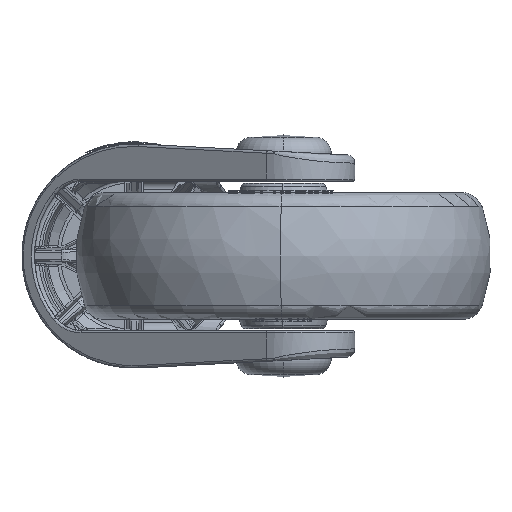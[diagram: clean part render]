
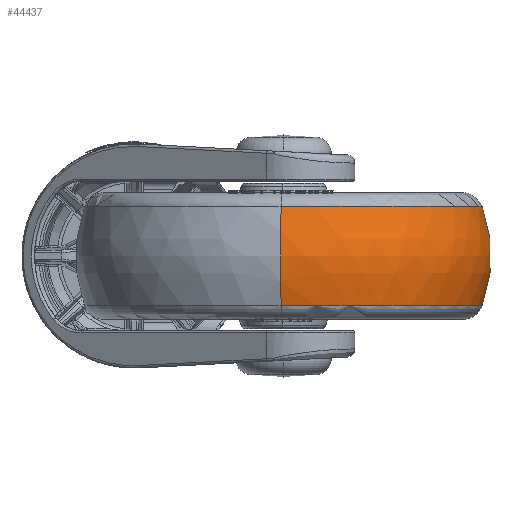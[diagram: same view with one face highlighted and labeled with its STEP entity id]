
A CAD part, front view. The second image highlights one B-rep face of the part: STEP entity #44437.
In plain terms, the highlighted free-form (B-spline) face has degree [3, 3] with [7, 4] control points.
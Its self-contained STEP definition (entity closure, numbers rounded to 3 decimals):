
#38315=CARTESIAN_POINT('',(63.,17.855,-45.886));
#38316=DIRECTION('',(0.,0.,-1.));
#38317=DIRECTION('',(0.012,1.,0.));
#38318=AXIS2_PLACEMENT_3D('',#38315,#38316,#38317);
#38320=CARTESIAN_POINT('',(62.814,2.856,
-33.927));
#38321=DIRECTION('',(1.,-0.012,0.));
#38322=DIRECTION('',(-0.012,-0.94,0.342));
#38323=AXIS2_PLACEMENT_3D('',#38320,#38321,#38322);
#38325=CARTESIAN_POINT('',(63.,17.855,-21.969));
#38326=DIRECTION('',(0.,0.,-1.));
#38327=DIRECTION('',(0.012,1.,0.));
#38328=AXIS2_PLACEMENT_3D('',#38325,#38326,#38327);
#38330=CARTESIAN_POINT('',(63.186,32.854,
-33.927));
#38331=DIRECTION('',(-1.,0.012,0.));
#38332=DIRECTION('',(0.012,0.94,0.342));
#38333=AXIS2_PLACEMENT_3D('',#38330,#38331,#38332);
#42377=CARTESIAN_POINT('',(62.407,-30.035,
-45.886));
#42378=CARTESIAN_POINT('',(63.593,65.745,
-45.886));
#42379=VERTEX_POINT('',#42377);
#42380=VERTEX_POINT('',#42378);
#42381=CARTESIAN_POINT('',(62.407,-30.035,
-21.969));
#42382=CARTESIAN_POINT('',(63.593,65.745,
-21.969));
#42383=VERTEX_POINT('',#42381);
#42384=VERTEX_POINT('',#42382);
#44400=CARTESIAN_POINT('',(59.414,-29.734,
-46.343));
#44401=CARTESIAN_POINT('',(59.183,-32.795,
-38.254));
#44402=CARTESIAN_POINT('',(59.183,-32.795,
-29.601));
#44403=CARTESIAN_POINT('',(59.414,-29.734,
-21.512));
#44404=CARTESIAN_POINT('',(88.7,-31.941,
-46.343));
#44405=CARTESIAN_POINT('',(90.353,-35.144,
-38.254));
#44406=CARTESIAN_POINT('',(90.353,-35.144,
-29.601));
#44407=CARTESIAN_POINT('',(88.7,-31.941,
-21.512));
#44408=CARTESIAN_POINT('',(110.357,-12.103,
-46.343));
#44409=CARTESIAN_POINT('',(113.402,-14.03,
-38.254));
#44410=CARTESIAN_POINT('',(113.402,-14.03,
-29.601));
#44411=CARTESIAN_POINT('',(110.357,-12.103,
-21.512));
#44412=CARTESIAN_POINT('',(110.72,17.264,
-46.343));
#44413=CARTESIAN_POINT('',(113.789,17.226,
-38.254));
#44414=CARTESIAN_POINT('',(113.789,17.226,
-29.601));
#44415=CARTESIAN_POINT('',(110.72,17.264,
-21.512));
#44416=CARTESIAN_POINT('',(111.084,46.631,
-46.343));
#44417=CARTESIAN_POINT('',(114.176,48.482,
-38.254));
#44418=CARTESIAN_POINT('',(114.176,48.482,
-29.601));
#44419=CARTESIAN_POINT('',(111.084,46.631,
-21.512));
#44420=CARTESIAN_POINT('',(89.925,66.999,
-46.343));
#44421=CARTESIAN_POINT('',(91.657,70.16,
-38.254));
#44422=CARTESIAN_POINT('',(91.657,70.16,
-29.601));
#44423=CARTESIAN_POINT('',(89.925,66.999,
-21.512));
#44424=CARTESIAN_POINT('',(60.593,65.518,
-46.343));
#44425=CARTESIAN_POINT('',(60.438,68.583,
-38.254));
#44426=CARTESIAN_POINT('',(60.438,68.583,
-29.601));
#44427=CARTESIAN_POINT('',(60.593,65.518,
-21.512));
#44428=(BOUNDED_SURFACE()B_SPLINE_SURFACE(3,3,((#44400,#44401,#44402,#44403),(
#44404,#44405,#44406,#44407),(#44408,#44409,#44410,#44411),(#44412,#44413,
#44414,#44415),(#44416,#44417,#44418,#44419),(#44420,#44421,#44422,#44423),(
#44424,#44425,#44426,#44427)),.UNSPECIFIED.,.F.,.F.,.F.)B_SPLINE_SURFACE_WITH_KNOTS((4,3,4),(4,4),(0.,1.,2.),(0.,1.),.UNSPECIFIED.)GEOMETRIC_REPRESENTATION_ITEM()RATIONAL_B_SPLINE_SURFACE(((1.227,1.174,
1.174,1.227),(0.969,0.927,
0.927,0.969),(0.969,0.927,
0.927,0.969),(1.227,1.174,
1.174,1.227),(0.969,0.927,
0.927,0.969),(0.969,0.927,
0.927,0.969),(1.227,1.174,
1.174,1.227)))REPRESENTATION_ITEM('')SURFACE());
#44430=ORIENTED_EDGE('',*,*,#44429,.T.);
#44431=ORIENTED_EDGE('',*,*,#44219,.F.);
#44433=ORIENTED_EDGE('',*,*,#44432,.F.);
#44434=ORIENTED_EDGE('',*,*,#44215,.T.);
#44435=EDGE_LOOP('',(#44430,#44431,#44433,#44434));
#44436=FACE_OUTER_BOUND('',#44435,.F.);
#38319=CIRCLE('',#38318,47.894);
#38324=CIRCLE('',#38323,35.);
#38329=CIRCLE('',#38328,47.894);
#38334=CIRCLE('',#38333,35.);
#44215=EDGE_CURVE('',#42384,#42380,#38334,.T.);
#44219=EDGE_CURVE('',#42383,#42379,#38324,.T.);
#44429=EDGE_CURVE('',#42380,#42379,#38319,.T.);
#44432=EDGE_CURVE('',#42384,#42383,#38329,.T.);
#44437=ADVANCED_FACE('',(#44436),#44428,.T.);
